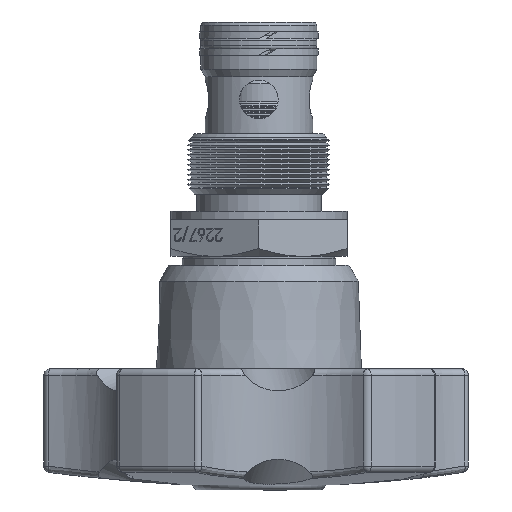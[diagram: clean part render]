
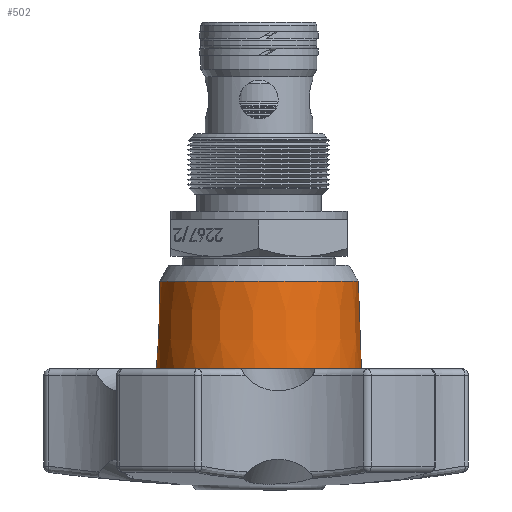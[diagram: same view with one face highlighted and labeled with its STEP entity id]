
A CAD part, left-side view. The second image highlights one B-rep face of the part: STEP entity #502.
In plain terms, the highlighted conical face has half-angle 2 degrees and reference radius 23 mm.
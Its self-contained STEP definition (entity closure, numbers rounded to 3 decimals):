
#159 = CARTESIAN_POINT ( 'NONE',  ( -22.671, 7.366, 27. ) ) ;
#502 = ADVANCED_FACE ( 'NONE', ( #14518 ), #16753, .T. ) ;
#810 = CARTESIAN_POINT ( 'NONE',  ( 22.343, -7.605, 33.77 ) ) ;
#843 = CARTESIAN_POINT ( 'NONE',  ( 21.826, -7.653, 47.313 ) ) ;
#1028 = DIRECTION ( 'NONE',  ( 1., 0., 0. ) ) ;
#1470 = B_SPLINE_CURVE_WITH_KNOTS ( 'NONE', 3,
 ( #12514, #27882, #18502, #9502 ),
 .UNSPECIFIED., .F., .F.,
 ( 4, 4 ),
 ( 0.004, 0.024 ),
 .UNSPECIFIED. ) ;
#2033 = ORIENTED_EDGE ( 'NONE', *, *, #39368, .T. ) ;
#2364 = CARTESIAN_POINT ( 'NONE',  ( 0., 0., 51. ) ) ;
#2385 = CARTESIAN_POINT ( 'NONE',  ( 21.826, 7.653, 47.313 ) ) ;
#3625 = CARTESIAN_POINT ( 'NONE',  ( 0., 0., 27. ) ) ;
#4544 = AXIS2_PLACEMENT_3D ( 'NONE', #3625, #15977, #1028 ) ;
#5287 = DIRECTION ( 'NONE',  ( -1., 0., 0. ) ) ;
#5666 = CARTESIAN_POINT ( 'NONE',  ( -14.012, -19.285, 27. ) ) ;
#6059 = B_SPLINE_CURVE_WITH_KNOTS ( 'NONE', 3,
 ( #13157, #810, #16352, #25527 ),
 .UNSPECIFIED., .F., .F.,
 ( 4, 4 ),
 ( 0., 0.02 ),
 .UNSPECIFIED. ) ;
#6829 = CARTESIAN_POINT ( 'NONE',  ( 0., 0., 27. ) ) ;
#6844 = EDGE_CURVE ( 'NONE', #7005, #27791, #6059, .T. ) ;
#6957 = CARTESIAN_POINT ( 'NONE',  ( 0., 0., 27. ) ) ;
#7005 = VERTEX_POINT ( 'NONE', #24528 ) ;
#7243 = CARTESIAN_POINT ( 'NONE',  ( 22.615, 7.537, 27. ) ) ;
#7400 = DIRECTION ( 'NONE',  ( 1., 0., 0. ) ) ;
#8260 = DIRECTION ( 'NONE',  ( 0., 0., -1. ) ) ;
#9454 = VERTEX_POINT ( 'NONE', #7243 ) ;
#9502 = CARTESIAN_POINT ( 'NONE',  ( 22.615, 7.537, 27. ) ) ;
#9896 = AXIS2_PLACEMENT_3D ( 'NONE', #25359, #16186, #25547 ) ;
#12505 = EDGE_CURVE ( 'NONE', #28466, #23354, #13591, .T. ) ;
#12514 = CARTESIAN_POINT ( 'NONE',  ( 21.826, 7.653, 47.313 ) ) ;
#13157 = CARTESIAN_POINT ( 'NONE',  ( 22.615, -7.537, 27. ) ) ;
#13583 = DIRECTION ( 'NONE',  ( 0., 0., 1. ) ) ;
#13591 = CIRCLE ( 'NONE', #32053, 23.838 ) ;
#14518 = FACE_OUTER_BOUND ( 'NONE', #39222, .T. ) ;
#14616 = EDGE_CURVE ( 'NONE', #29470, #7005, #15318, .T. ) ;
#15318 = CIRCLE ( 'NONE', #26781, 23.838 ) ;
#15977 = DIRECTION ( 'NONE',  ( 0., 0., 1. ) ) ;
#16058 = AXIS2_PLACEMENT_3D ( 'NONE', #6829, #13583, #7400 ) ;
#16186 = DIRECTION ( 'NONE',  ( 0., 0., 1. ) ) ;
#16352 = CARTESIAN_POINT ( 'NONE',  ( 22.081, -7.64, 40.541 ) ) ;
#16665 = ORIENTED_EDGE ( 'NONE', *, *, #24894, .T. ) ;
#16753 = CONICAL_SURFACE ( 'NONE', #34579, 23., 0.035 ) ;
#18273 = ORIENTED_EDGE ( 'NONE', *, *, #12505, .T. ) ;
#18502 = CARTESIAN_POINT ( 'NONE',  ( 22.343, 7.605, 33.77 ) ) ;
#18770 = DIRECTION ( 'NONE',  ( 0., 0., 1. ) ) ;
#19087 = ORIENTED_EDGE ( 'NONE', *, *, #22015, .T. ) ;
#19141 = DIRECTION ( 'NONE',  ( 1., 0., 0. ) ) ;
#20121 = DIRECTION ( 'NONE',  ( 0., 0., -1. ) ) ;
#21208 = CIRCLE ( 'NONE', #39030, 23.129 ) ;
#22015 = EDGE_CURVE ( 'NONE', #23354, #29470, #27752, .T. ) ;
#23094 = DIRECTION ( 'NONE',  ( 1., 0., 0. ) ) ;
#23354 = VERTEX_POINT ( 'NONE', #5666 ) ;
#23626 = VERTEX_POINT ( 'NONE', #35581 ) ;
#24528 = CARTESIAN_POINT ( 'NONE',  ( 22.615, -7.537, 27. ) ) ;
#24894 = EDGE_CURVE ( 'NONE', #9454, #23626, #28761, .T. ) ;
#25359 = CARTESIAN_POINT ( 'NONE',  ( 0., 0., 27. ) ) ;
#25527 = CARTESIAN_POINT ( 'NONE',  ( 21.826, -7.653, 47.313 ) ) ;
#25547 = DIRECTION ( 'NONE',  ( 1., 0., 0. ) ) ;
#26781 = AXIS2_PLACEMENT_3D ( 'NONE', #6957, #18770, #19141 ) ;
#27752 = CIRCLE ( 'NONE', #9896, 23.838 ) ;
#27791 = VERTEX_POINT ( 'NONE', #843 ) ;
#27882 = CARTESIAN_POINT ( 'NONE',  ( 22.081, 7.64, 40.542 ) ) ;
#28338 = VERTEX_POINT ( 'NONE', #2385 ) ;
#28466 = VERTEX_POINT ( 'NONE', #159 ) ;
#28761 = CIRCLE ( 'NONE', #4544, 23.838 ) ;
#29470 = VERTEX_POINT ( 'NONE', #35259 ) ;
#30077 = ORIENTED_EDGE ( 'NONE', *, *, #36200, .T. ) ;
#30785 = EDGE_CURVE ( 'NONE', #27791, #28338, #21208, .T. ) ;
#31358 = ORIENTED_EDGE ( 'NONE', *, *, #14616, .T. ) ;
#32053 = AXIS2_PLACEMENT_3D ( 'NONE', #35366, #35760, #35151 ) ;
#32701 = ORIENTED_EDGE ( 'NONE', *, *, #6844, .T. ) ;
#33277 = CIRCLE ( 'NONE', #16058, 23.838 ) ;
#34579 = AXIS2_PLACEMENT_3D ( 'NONE', #2364, #20121, #23094 ) ;
#35151 = DIRECTION ( 'NONE',  ( 1., 0., 0. ) ) ;
#35259 = CARTESIAN_POINT ( 'NONE',  ( 14.012, -19.285, 27. ) ) ;
#35366 = CARTESIAN_POINT ( 'NONE',  ( 0., 0., 27. ) ) ;
#35581 = CARTESIAN_POINT ( 'NONE',  ( 0., 23.838, 27. ) ) ;
#35760 = DIRECTION ( 'NONE',  ( 0., 0., 1. ) ) ;
#36200 = EDGE_CURVE ( 'NONE', #23626, #28466, #33277, .T. ) ;
#36474 = ORIENTED_EDGE ( 'NONE', *, *, #30785, .T. ) ;
#38621 = CARTESIAN_POINT ( 'NONE',  ( 0., 0., 47.313 ) ) ;
#39030 = AXIS2_PLACEMENT_3D ( 'NONE', #38621, #8260, #5287 ) ;
#39222 = EDGE_LOOP ( 'NONE', ( #32701, #36474, #2033, #16665, #30077, #18273, #19087, #31358 ) ) ;
#39368 = EDGE_CURVE ( 'NONE', #28338, #9454, #1470, .T. ) ;
